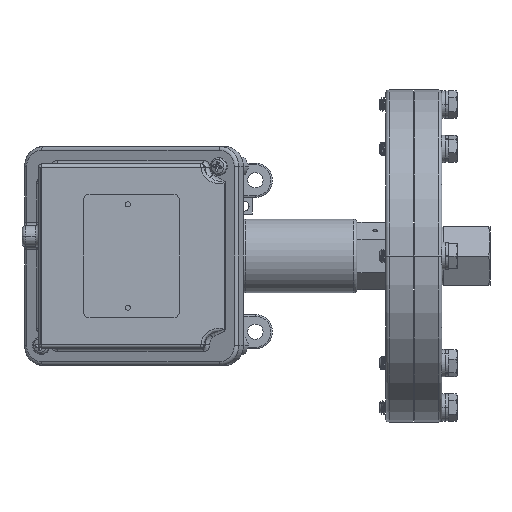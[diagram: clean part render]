
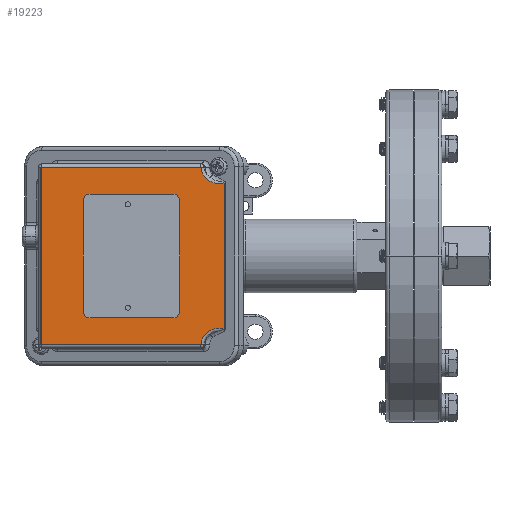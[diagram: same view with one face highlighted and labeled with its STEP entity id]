
A CAD part, left-side view. The second image highlights one B-rep face of the part: STEP entity #19223.
In plain terms, the highlighted planar face has unit normal (-1, 0.005, 0).
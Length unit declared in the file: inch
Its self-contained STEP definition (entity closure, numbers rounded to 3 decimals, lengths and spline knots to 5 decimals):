
#1690 = CARTESIAN_POINT ( 'NONE',  ( -2.32057, 0.61286, -1.61 ) ) ;
#1891 = CARTESIAN_POINT ( 'NONE',  ( -2.31341, 1.9849, 0.937 ) ) ;
#2543 = EDGE_CURVE ( 'NONE', #12373, #31833, #30442, .T. ) ;
#4237 = CIRCLE ( 'NONE', #50626, 0.0465 ) ;
#4598 = VECTOR ( 'NONE', #44910, 39.37008 ) ;
#9756 = VERTEX_POINT ( 'NONE', #17977 ) ;
#12255 = EDGE_CURVE ( 'NONE', #34064, #9756, #60818, .T. ) ;
#12373 = VERTEX_POINT ( 'NONE', #37976 ) ;
#12794 = CARTESIAN_POINT ( 'NONE',  ( -2.31365, 1.9384, 0.937 ) ) ;
#12969 = LINE ( 'NONE', #19604, #4598 ) ;
#14379 = EDGE_CURVE ( 'NONE', #63723, #46457, #55896, .T. ) ;
#17977 = CARTESIAN_POINT ( 'NONE',  ( -2.31389, 1.8919, -0.938 ) ) ;
#19016 = DIRECTION ( 'NONE',  ( -1., 0.005, 0. ) ) ;
#19067 = VECTOR ( 'NONE', #33216, 39.37008 ) ;
#19223 = ADVANCED_FACE ( 'NONE', ( #31168, #38201, #35477 ), #50672, .F. ) ;
#19604 = CARTESIAN_POINT ( 'NONE',  ( -2.32081, 0.56672, -1.61 ) ) ;
#19802 = CARTESIAN_POINT ( 'NONE',  ( -2.32057, 0.61286, 1.61 ) ) ;
#19968 = CARTESIAN_POINT ( 'NONE',  ( -2.32159, 0.41746, -1.27099 ) ) ;
#19990 = ORIENTED_EDGE ( 'NONE', *, *, #40340, .T. ) ;
#21007 = ORIENTED_EDGE ( 'NONE', *, *, #34496, .T. ) ;
#21269 = ORIENTED_EDGE ( 'NONE', *, *, #12255, .F. ) ;
#21980 = CARTESIAN_POINT ( 'NONE',  ( -2.32276, 0.19397, 1.32146 ) ) ;
#22488 = CARTESIAN_POINT ( 'NONE',  ( -2.32276, 0.19397, 1.6725 ) ) ;
#27016 = AXIS2_PLACEMENT_3D ( 'NONE', #63120, #63535, #67018 ) ;
#27307 = VERTEX_POINT ( 'NONE', #59656 ) ;
#28025 = DIRECTION ( 'NONE',  ( -0.005, -1., 0. ) ) ;
#29521 = DIRECTION ( 'NONE',  ( -1., 0.005, 0. ) ) ;
#30442 = CIRCLE ( 'NONE', #50274, 0.0465 ) ;
#31168 = FACE_BOUND ( 'NONE', #34770, .T. ) ;
#31751 = DIRECTION ( 'NONE',  ( -0.005, -1., 0. ) ) ;
#31833 = VERTEX_POINT ( 'NONE', #1891 ) ;
#32032 = ORIENTED_EDGE ( 'NONE', *, *, #32947, .T. ) ;
#32155 = ORIENTED_EDGE ( 'NONE', *, *, #74441, .F. ) ;
#32947 = EDGE_CURVE ( 'NONE', #53345, #27307, #35997, .T. ) ;
#32962 = AXIS2_PLACEMENT_3D ( 'NONE', #37564, #44616, #31751 ) ;
#33216 = DIRECTION ( 'NONE',  ( 0.005, 1., 0. ) ) ;
#33622 = LINE ( 'NONE', #46076, #19067 ) ;
#33877 = CARTESIAN_POINT ( 'NONE',  ( -2.32159, 0.41746, 1.27099 ) ) ;
#34064 = VERTEX_POINT ( 'NONE', #73857 ) ;
#34093 = DIRECTION ( 'NONE',  ( 0., 0., 1. ) ) ;
#34496 = EDGE_CURVE ( 'NONE', #37788, #66180, #54260, .T. ) ;
#34770 = EDGE_LOOP ( 'NONE', ( #35771, #32155 ) ) ;
#35477 = FACE_OUTER_BOUND ( 'NONE', #39915, .T. ) ;
#35771 = ORIENTED_EDGE ( 'NONE', *, *, #2543, .F. ) ;
#35997 =( BOUNDED_CURVE ( )  B_SPLINE_CURVE ( 3, ( #1690, #65189, #19968, #45269 ),
 .UNSPECIFIED., .F., .F. ) 
 B_SPLINE_CURVE_WITH_KNOTS ( ( 4, 4 ),
 ( 3.18961, 4.95247 ),
 .UNSPECIFIED. ) 
 CURVE ( )  GEOMETRIC_REPRESENTATION_ITEM ( )  RATIONAL_B_SPLINE_CURVE ( ( 1., 0.757, 0.757, 1. ) ) 
 REPRESENTATION_ITEM ( '' )  );
#37564 = CARTESIAN_POINT ( 'NONE',  ( -2.31365, 1.9384, -0.938 ) ) ;
#37788 = VERTEX_POINT ( 'NONE', #53502 ) ;
#37976 = CARTESIAN_POINT ( 'NONE',  ( -2.31389, 1.8919, 0.937 ) ) ;
#38201 = FACE_BOUND ( 'NONE', #46826, .T. ) ;
#39915 = EDGE_LOOP ( 'NONE', ( #21007, #19990, #32032, #65033, #82103, #43056 ) ) ;
#40340 = EDGE_CURVE ( 'NONE', #66180, #53345, #12969, .T. ) ;
#40523 = EDGE_CURVE ( 'NONE', #27307, #63723, #78146, .T. ) ;
#41308 = EDGE_CURVE ( 'NONE', #9756, #34064, #66983, .T. ) ;
#41795 = DIRECTION ( 'NONE',  ( 0., 0., -1. ) ) ;
#43056 = ORIENTED_EDGE ( 'NONE', *, *, #49376, .T. ) ;
#44616 = DIRECTION ( 'NONE',  ( -1., 0.005, 0. ) ) ;
#44910 = DIRECTION ( 'NONE',  ( -0.005, -1., 0. ) ) ;
#45269 = CARTESIAN_POINT ( 'NONE',  ( -2.32276, 0.19397, -1.32146 ) ) ;
#46076 = CARTESIAN_POINT ( 'NONE',  ( -2.32282, 0.18143, 1.61 ) ) ;
#46281 = CARTESIAN_POINT ( 'NONE',  ( -2.31365, 1.9384, -0.938 ) ) ;
#46457 = VERTEX_POINT ( 'NONE', #67796 ) ;
#46826 = EDGE_LOOP ( 'NONE', ( #55175, #21269 ) ) ;
#47003 = VECTOR ( 'NONE', #34093, 39.37008 ) ;
#49376 = EDGE_CURVE ( 'NONE', #46457, #37788, #33622, .T. ) ;
#50274 = AXIS2_PLACEMENT_3D ( 'NONE', #67286, #29521, #81012 ) ;
#50626 = AXIS2_PLACEMENT_3D ( 'NONE', #12794, #19016, #63014 ) ;
#50672 = PLANE ( 'NONE',  #27016 ) ;
#51444 = CARTESIAN_POINT ( 'NONE',  ( -2.32057, 0.61286, -1.61 ) ) ;
#52342 = AXIS2_PLACEMENT_3D ( 'NONE', #46281, #65365, #28025 ) ;
#53345 = VERTEX_POINT ( 'NONE', #51444 ) ;
#53502 = CARTESIAN_POINT ( 'NONE',  ( -2.3055, 3.50088, 1.61 ) ) ;
#54260 = LINE ( 'NONE', #79591, #63207 ) ;
#55175 = ORIENTED_EDGE ( 'NONE', *, *, #41308, .F. ) ;
#55896 =( BOUNDED_CURVE ( )  B_SPLINE_CURVE ( 3, ( #57993, #33877, #59206, #19802 ),
 .UNSPECIFIED., .F., .T. ) 
 B_SPLINE_CURVE_WITH_KNOTS ( ( 4, 4 ),
 ( 1.33072, 3.09357 ),
 .UNSPECIFIED. ) 
 CURVE ( )  GEOMETRIC_REPRESENTATION_ITEM ( )  RATIONAL_B_SPLINE_CURVE ( ( 1., 0.757, 0.757, 1. ) ) 
 REPRESENTATION_ITEM ( '' )  );
#57993 = CARTESIAN_POINT ( 'NONE',  ( -2.32276, 0.19397, 1.32146 ) ) ;
#59206 = CARTESIAN_POINT ( 'NONE',  ( -2.32063, 0.60182, 1.39798 ) ) ;
#59656 = CARTESIAN_POINT ( 'NONE',  ( -2.32276, 0.19397, -1.32146 ) ) ;
#60818 = CIRCLE ( 'NONE', #32962, 0.0465 ) ;
#63014 = DIRECTION ( 'NONE',  ( -0.005, -1., 0. ) ) ;
#63120 = CARTESIAN_POINT ( 'NONE',  ( -2.32282, 0.18143, 1.6725 ) ) ;
#63207 = VECTOR ( 'NONE', #41795, 39.37008 ) ;
#63535 = DIRECTION ( 'NONE',  ( 1., -0.005, 0. ) ) ;
#63723 = VERTEX_POINT ( 'NONE', #21980 ) ;
#65033 = ORIENTED_EDGE ( 'NONE', *, *, #40523, .T. ) ;
#65189 = CARTESIAN_POINT ( 'NONE',  ( -2.32063, 0.60182, -1.39798 ) ) ;
#65365 = DIRECTION ( 'NONE',  ( -1., 0.005, 0. ) ) ;
#66180 = VERTEX_POINT ( 'NONE', #79884 ) ;
#66983 = CIRCLE ( 'NONE', #52342, 0.0465 ) ;
#67018 = DIRECTION ( 'NONE',  ( 0.005, 1., 0. ) ) ;
#67286 = CARTESIAN_POINT ( 'NONE',  ( -2.31365, 1.9384, 0.937 ) ) ;
#67796 = CARTESIAN_POINT ( 'NONE',  ( -2.32057, 0.61286, 1.61 ) ) ;
#73857 = CARTESIAN_POINT ( 'NONE',  ( -2.31341, 1.9849, -0.938 ) ) ;
#74441 = EDGE_CURVE ( 'NONE', #31833, #12373, #4237, .T. ) ;
#78146 = LINE ( 'NONE', #22488, #47003 ) ;
#79591 = CARTESIAN_POINT ( 'NONE',  ( -2.3055, 3.50088, 1.6725 ) ) ;
#79884 = CARTESIAN_POINT ( 'NONE',  ( -2.3055, 3.50088, -1.61 ) ) ;
#81012 = DIRECTION ( 'NONE',  ( -0.005, -1., 0. ) ) ;
#82103 = ORIENTED_EDGE ( 'NONE', *, *, #14379, .T. ) ;
